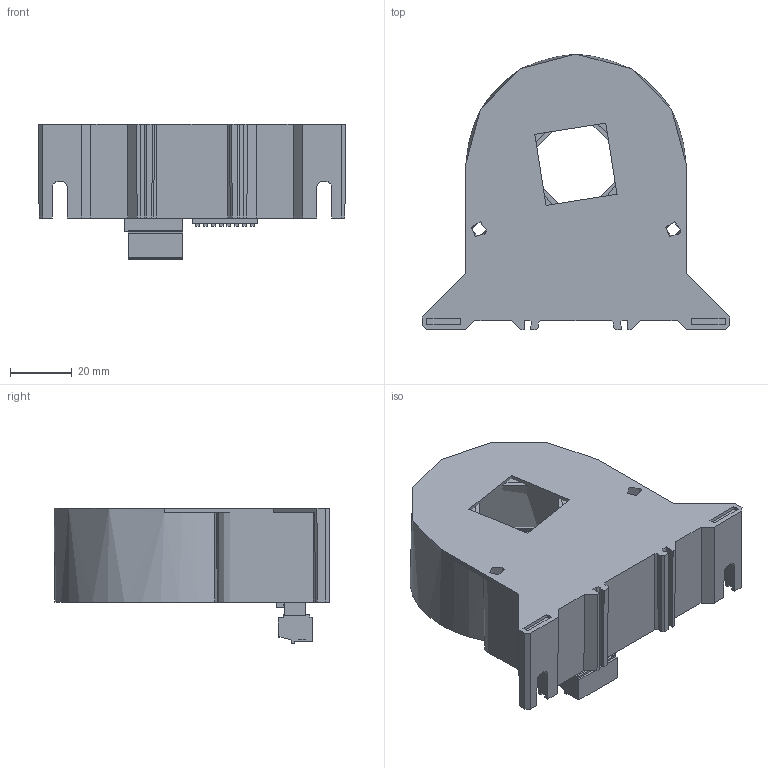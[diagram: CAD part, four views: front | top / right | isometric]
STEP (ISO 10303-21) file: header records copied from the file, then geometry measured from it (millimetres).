
FILE_DESCRIPTION(/* description */ (''),/* implementation_level */ '2;1');
FILE_NAME(/* name */ 'C:\Users\funes\Desktop\QI-300-V-485.stp',/* time_stamp */ '2017-09-06T11:04:45+02:00',/* author */ ('funes'),/* organization */ (''),/* preprocessor_version */ 'ST-DEVELOPER v16.1',/* originating_system */ 'Autodesk Inventor LT ',/* authorisation */ '');
FILE_SCHEMA (('AUTOMOTIVE_DESIGN { 1 0 10303 214 3 1 1 }'));
Length unit declared in the file: millimetre
Products named in the file (1): QI-300-V-485_rendering
Bounding box: 99.78 x 89.58 x 44.01 mm (x, y, z)
Volume: 135456.4 mm3; surface area: 72806.1 mm2
Topology: 25 solids, 25 shells, 2016 faces, 5327 edges, 3501 vertices
Faces by surface type: plane 1571, cylinder 348, bspline 37, cone 32, torus 28
Full cylindrical faces by diameter (mm): 0.41 x9, 0.457 x2, 0.6 x6, 0.7 x8, 0.805 x3, 0.9 x16, 1 x29, 1.2 x5, 1.25 x5, 1.6 x8, 2.032 x1, 2.8 x5, 2.9 x5, 3.048 x1, 5 x2, 33 x1, 36.5 x2
Entity records: 64794 total; most frequent: CARTESIAN_POINT 14383, ORIENTED_EDGE 10270, DIRECTION 9771, EDGE_CURVE 5135, LINE 4131, VECTOR 4131, VERTEX_POINT 3444, AXIS2_PLACEMENT_3D 2820
